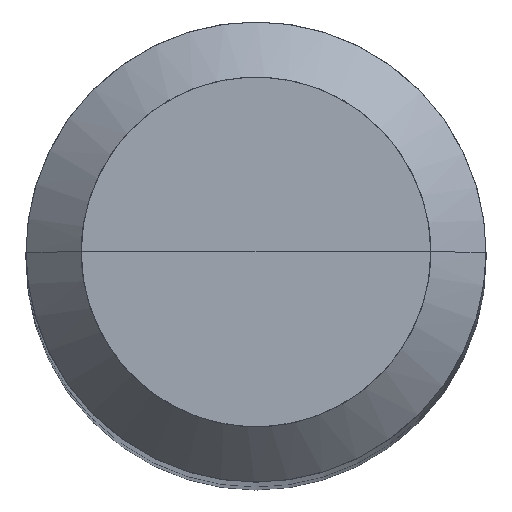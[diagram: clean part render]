
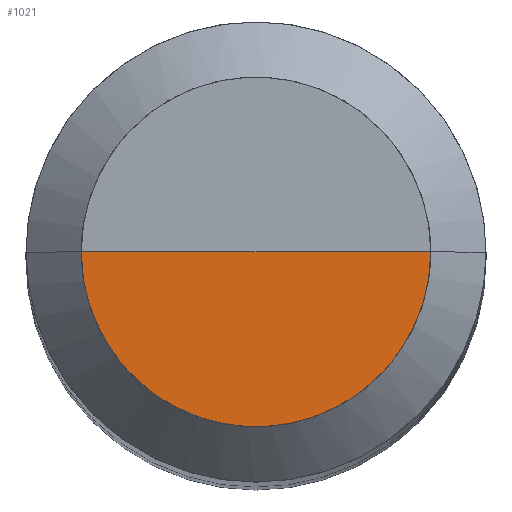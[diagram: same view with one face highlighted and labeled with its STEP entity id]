
A CAD part, top view. The second image highlights one B-rep face of the part: STEP entity #1021.
In plain terms, the highlighted free-form (B-spline) face has degree [1, 2] with [2, 5] control points.
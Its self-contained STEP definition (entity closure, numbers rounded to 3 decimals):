
#713=CARTESIAN_POINT('',(1.9,0.0,30.0));
#717=CARTESIAN_POINT('',(-1.9,0.0,30.0));
#718=CARTESIAN_POINT('',(0.0,0.0,30.0));
#722=CARTESIAN_POINT('',(-1.9,-1.9,30.0));
#723=CARTESIAN_POINT('',(0.0,-1.9,30.0));
#724=CARTESIAN_POINT('',(1.9,-1.9,30.0));
#1006=(
BOUNDED_SURFACE()
B_SPLINE_SURFACE(1,2,(
(#717,#722,#723,#724,#713),
(#718,#718,#718,#718,#718)
), .UNSPECIFIED.,.F.,.F.,.F.)
B_SPLINE_SURFACE_WITH_KNOTS((2,2),(3,2,3),(
0.0,1.0),(
0.0,0.5,1.0), .UNSPECIFIED.)
GEOMETRIC_REPRESENTATION_ITEM()
RATIONAL_B_SPLINE_SURFACE(((1.0,0.707,1.0,0.707,1.0),
(1.0,0.707,1.0,0.707,1.0)
))
REPRESENTATION_ITEM('')
SURFACE()
);
#1007=(
BOUNDED_CURVE()
B_SPLINE_CURVE(2,(#713,#724,#723,#722,#717),.UNSPECIFIED.,.F.,.F.)
B_SPLINE_CURVE_WITH_KNOTS((3,2,3),
(0.0,0.5,1.0),.UNSPECIFIED.)
CURVE()
GEOMETRIC_REPRESENTATION_ITEM()
RATIONAL_B_SPLINE_CURVE((1.0,0.707,1.0,0.707,1.0))
REPRESENTATION_ITEM('')
);
#1008=(
BOUNDED_CURVE()
B_SPLINE_CURVE(1,(#717,#718),.UNSPECIFIED.,.F.,.F.)
B_SPLINE_CURVE_WITH_KNOTS((2,2),
(0.0,1.0),.UNSPECIFIED.)
CURVE()
GEOMETRIC_REPRESENTATION_ITEM()
RATIONAL_B_SPLINE_CURVE((1.0,1.0))
REPRESENTATION_ITEM('')
);
#1009=(
BOUNDED_CURVE()
B_SPLINE_CURVE(1,(#718,#713),.UNSPECIFIED.,.F.,.F.)
B_SPLINE_CURVE_WITH_KNOTS((2,2),
(0.0,1.0),.UNSPECIFIED.)
CURVE()
GEOMETRIC_REPRESENTATION_ITEM()
RATIONAL_B_SPLINE_CURVE((1.0,1.0))
REPRESENTATION_ITEM('')
);
#1010=VERTEX_POINT('',#713);
#1011=VERTEX_POINT('',#717);
#1012=VERTEX_POINT('',#718);
#1013=EDGE_CURVE('',#1010,#1011,#1007,.T.);
#1014=EDGE_CURVE('',#1011,#1012,#1008,.T.);
#1015=EDGE_CURVE('',#1012,#1010,#1009,.T.);
#1016=ORIENTED_EDGE('',*,*,#1013,.T.);
#1017=ORIENTED_EDGE('',*,*,#1014,.T.);
#1018=ORIENTED_EDGE('',*,*,#1015,.T.);
#1019=EDGE_LOOP('',(#1016,#1017,#1018));
#1020=FACE_OUTER_BOUND('',#1019,.T.);
#1021=ADVANCED_FACE('',(#1020),#1006,.T.);
